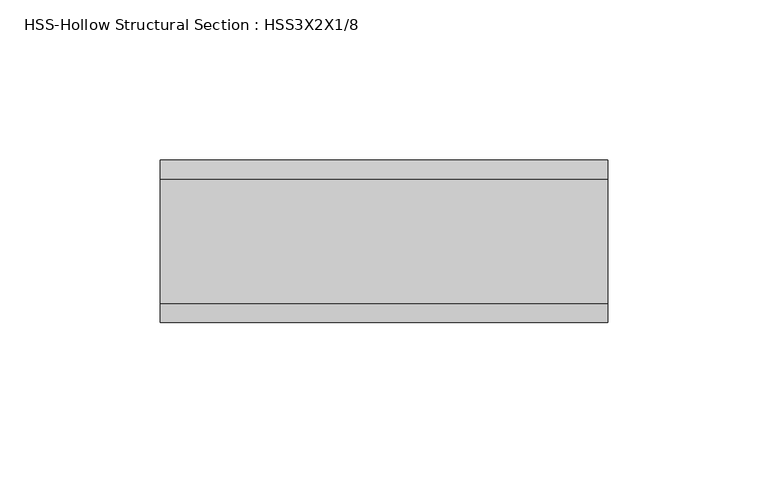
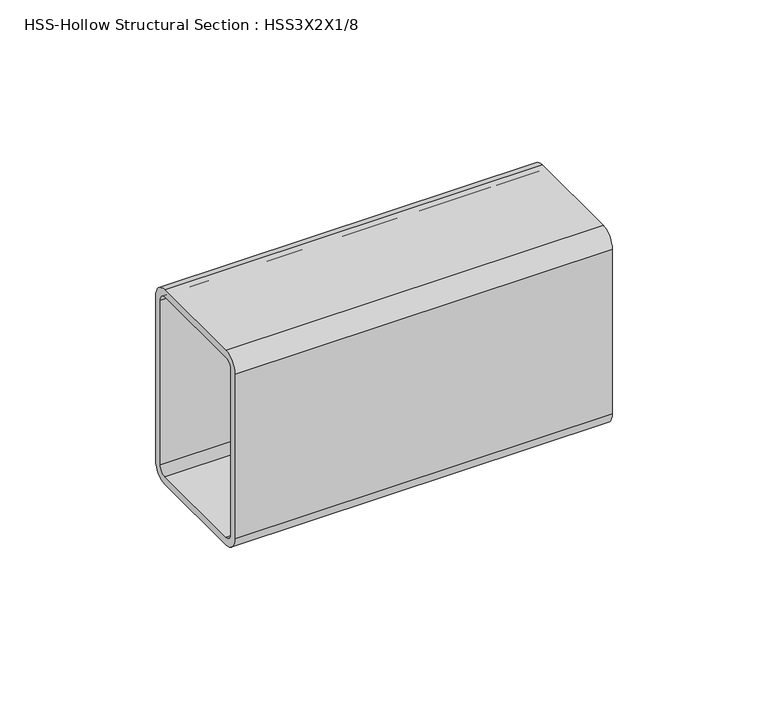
"""IFC4 building model written with IfcOpenShell, lengths in millimetres: beam geometry, HSS-Hollow Structural Section : HSS3X2X1/8."""

from ifc_helpers import new_model, si_unit, point, frame, frame_2d, origin, place, context, project, spatial, polyline, circle_curve, trimmed, segment, composite_curve, outline, extrude, source, transform, mapped, element, save


def hss_hollow_structural_section_hss3x2x1_8_7ccaf686(model_context):
    return source(origin(), model_context, "Body", "SweptSolid", [
        extrude(outline(composite_curve([segment(polyline([(25.4, 32.2072), (25.4, -32.2072)]), True, "CONTINUOUS"), segment(trimmed(circle_curve(frame_2d((19.5072, -32.2072)), 5.8928), [point((25.4, -32.2072))], [point((19.5072, -38.1))], False, "CARTESIAN"), True, "CONTINUOUS"), segment(polyline([(19.5072, -38.1), (-19.5072, -38.1)]), True, "CONTINUOUS"), segment(trimmed(circle_curve(frame_2d((-19.5072, -32.2072)), 5.8928), [point((-19.5072, -38.1))], [point((-25.4, -32.2072))], False, "CARTESIAN"), True, "CONTINUOUS"), segment(polyline([(-25.4, -32.2072), (-25.4, 32.2072)]), True, "CONTINUOUS"), segment(trimmed(circle_curve(frame_2d((-19.5072, 32.2072)), 5.8928), [point((-25.4, 32.2072))], [point((-19.5072, 38.1))], False, "CARTESIAN"), True, "CONTINUOUS"), segment(polyline([(-19.5072, 38.1), (19.5072, 38.1)]), True, "CONTINUOUS"), segment(trimmed(circle_curve(frame_2d((19.5072, 32.2072)), 5.8928), [point((19.5072, 38.1))], [point((25.4, 32.2072))], False, "CARTESIAN"), True, "CONTINUOUS")], self_intersect=False), holes=[composite_curve([segment(trimmed(circle_curve(frame_2d((-19.5072, 32.2072)), 2.9464), [point((-19.5072, 35.1536))], [point((-22.4536, 32.2072))], True, "CARTESIAN"), True, "CONTINUOUS"), segment(polyline([(-22.4536, 32.2072), (-22.4536, -32.2072)]), True, "CONTINUOUS"), segment(trimmed(circle_curve(frame_2d((-19.5072, -32.2072)), 2.9464), [point((-22.4536, -32.2072))], [point((-19.5072, -35.1536))], True, "CARTESIAN"), True, "CONTINUOUS"), segment(polyline([(-19.5072, -35.1536), (19.5072, -35.1536)]), True, "CONTINUOUS"), segment(trimmed(circle_curve(frame_2d((19.5072, -32.2072)), 2.9464), [point((19.5072, -35.1536))], [point((22.4536, -32.2072))], True, "CARTESIAN"), True, "CONTINUOUS"), segment(polyline([(22.4536, -32.2072), (22.4536, 32.2072)]), True, "CONTINUOUS"), segment(trimmed(circle_curve(frame_2d((19.5072, 32.2072)), 2.9464), [point((22.4536, 32.2072))], [point((19.5072, 35.1536))], True, "CARTESIAN"), True, "CONTINUOUS"), segment(polyline([(19.5072, 35.1536), (-19.5072, 35.1536)]), True, "CONTINUOUS")], self_intersect=False)]), frame((-31.2475436, 0.0, 0.0), z_axis=(1.0, 0.0, 0.0), x_axis=(0.0, 1.0, 0.0)), (0.0, 0.0, 1.0), 139.7972541),
    ])


if __name__ == "__main__":
    model = new_model("IFC4")
    model_context = context("Model", 3, world=origin())
    ifc_project = project(units=[si_unit("LENGTHUNIT", "METRE", prefix="MILLI")], contexts=[model_context])
    site = spatial("IfcSite", under=ifc_project)
    building = spatial("IfcBuilding", under=site)
    placement = place(None, origin())
    hss_hollow_structural_section_hss3x2x1_8_shape = hss_hollow_structural_section_hss3x2x1_8_7ccaf686(model_context)
    element("IfcBeam", 1, ObjectType="HSS-Hollow Structural Section : HSS3X2X1/8", at=placement, inside=building, context=model_context, shape_type="MappedRepresentation", body=[
        mapped(hss_hollow_structural_section_hss3x2x1_8_shape, transform((0.0, 0.0, 0.0), x_axis=(1.0, 0.0, 0.0), y_axis=(0.0, 1.0, 0.0), z_axis=(0.0, 0.0, 1.0))),
    ])
    save(model, "model.ifc")
